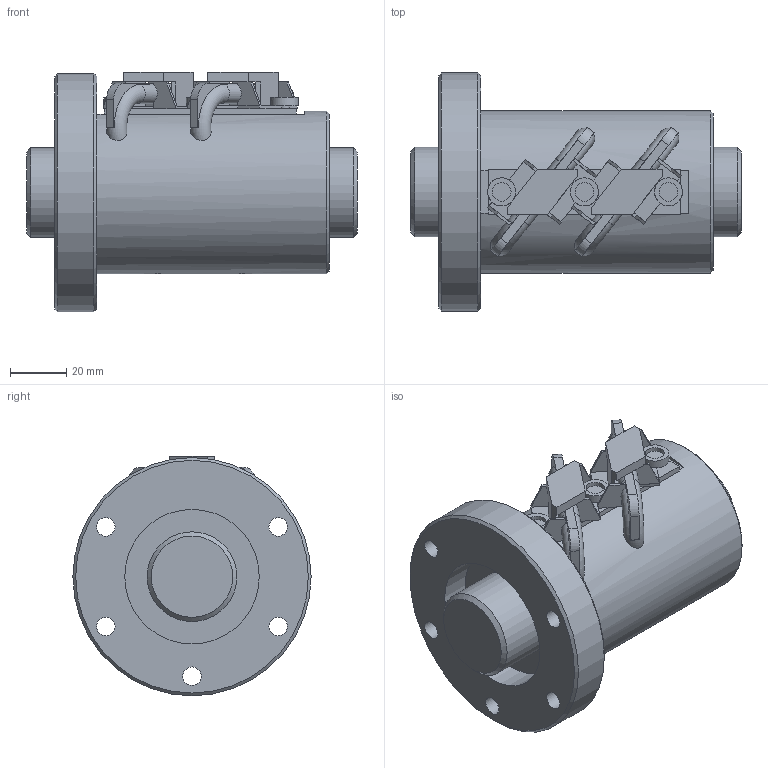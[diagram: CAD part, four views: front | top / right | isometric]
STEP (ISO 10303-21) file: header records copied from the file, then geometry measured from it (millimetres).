
FILE_DESCRIPTION(/* description */ ('STEP AP203'),/* implementation_level */ '2;1');
FILE_NAME(/* name */ 'HBN3210-5RRG2+118LC0(0G200)_rev',/* time_stamp */ '2024-07-04T08:17:12+02:00',/* author */ ('License CC BY-ND 4.0'),/* organization */ ('CADENAS'),/* preprocessor_version */ 'ST-DEVELOPER v19.3',/* originating_system */ 'PARTsolutions',/* authorisation */ ' ');
FILE_SCHEMA (('CONFIG_CONTROL_DESIGN'));
Length unit declared in the file: millimetre
Products named in the file (3): HBN3210-5RRG2+118LC0(0G200)_rev; HBN3210-5 RRG1+118L C0(01000) Shaft; HBN3210-5 RRG1+108L C0(0100) Nut
Assembly tree (2 placements, depth 2):
  HBN3210-5RRG2+118LC0(0G200)_rev
    HBN3210-5 RRG1+118L C0(01000) Shaft
    HBN3210-5 RRG1+108L C0(0100) Nut
Bounding box: 118 x 85 x 85.5 mm (x, y, z)
Volume: 307714 mm3; surface area: 62018 mm2
Topology: 2 solids, 2 shells, 179 faces, 503 edges, 319 vertices
Faces by surface type: plane 138, cylinder 28, cone 9, torus 4
Full cylindrical faces by diameter (mm): 4.917 x2, 6.6 x5, 6.667 x3, 10 x3, 32 x2, 48 x2, 58 x1, 85 x1
Entity records: 5665 total; most frequent: CARTESIAN_POINT 1085, ORIENTED_EDGE 918, DIRECTION 890, EDGE_CURVE 459, LINE 354, VECTOR 354, VERTEX_POINT 309, AXIS2_PLACEMENT_3D 268
